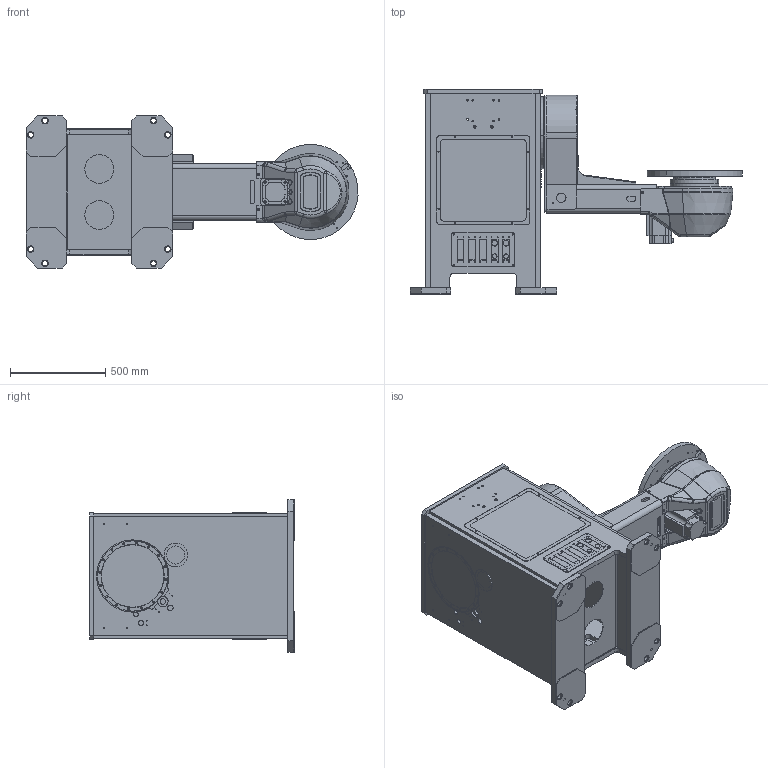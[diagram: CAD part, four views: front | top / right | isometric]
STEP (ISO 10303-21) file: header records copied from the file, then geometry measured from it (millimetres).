
FILE_DESCRIPTION (( 'STEP AP214' ), '1' );
FILE_NAME ('126919red.STEP', '2008-11-06T15:35:20', ( ' ' ), ( ' ' ), 'SwSTEP 2.0', 'SolidWorks 2008', '' );
FILE_SCHEMA (( 'AUTOMOTIVE_DESIGN' ));
Length unit declared in the file: millimetre
Products named in the file (4): Basis_Standard; 141204red_Standard; L-250red_Standard; 126919red
Assembly tree (3 placements, depth 2):
  126919red
    L-250red_Standard
    141204red_Standard
    Basis_Standard
Bounding box: 1744.49 x 1077 x 800 mm (x, y, z)
Volume: 102282257.3 mm3; surface area: 13597188.6 mm2
Topology: 45 solids, 45 shells, 2854 faces, 7533 edges, 4767 vertices
Faces by surface type: cylinder 1532, plane 931, cone 272, torus 71, bspline 32, sphere 16
Entity records: 122499 total; most frequent: CARTESIAN_POINT 18397, DIRECTION 16054, ORIENTED_EDGE 14658, EDGE_CURVE 7329, AXIS2_PLACEMENT_3D 6086, VERTEX_POINT 4767, EDGE_LOOP 3990, VECTOR 3882
